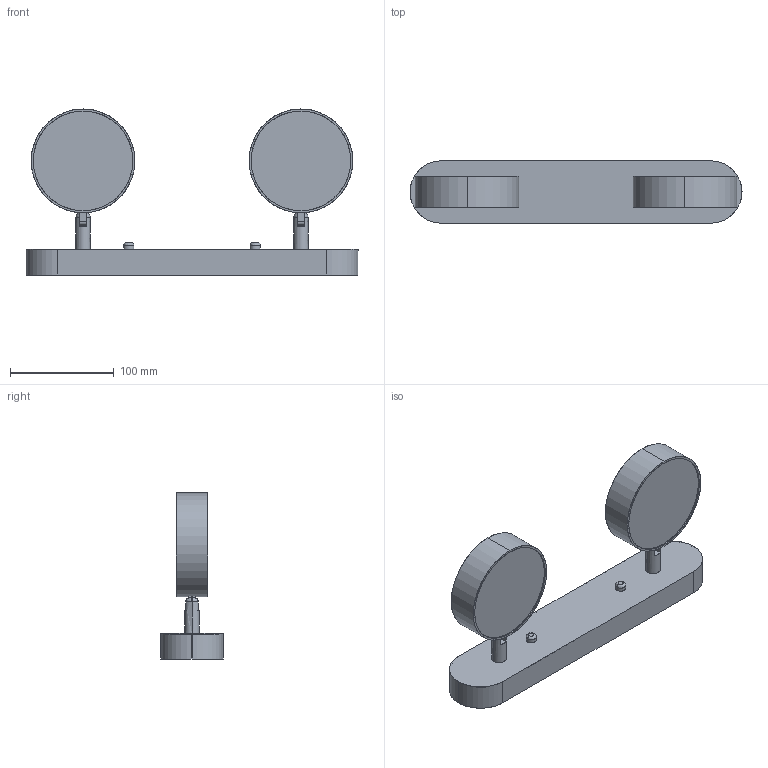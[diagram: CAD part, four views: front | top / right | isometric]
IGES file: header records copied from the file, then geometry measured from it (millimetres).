
Start section: SolidWorks IGES file using analytic representation for surfaces
Global section: file name: F:\燠隴矨\3D\2026-1\Black Travertine Duo Wall Light-2Lights.IGS,15; native system: HSolidWorks 2022; preprocessor: SolidWorks 2022; author: MyPC; date: 260106.090414; units: millimetre
Bounding box: 320 x 60 x 160 mm (x, y, z)
Surface area: 127722.3 mm2 (no closed solid volume)
Topology: 0 solids, 0 shells, 77 faces, 1424 edges, 1424 vertices
Faces by surface type: bspline 49, revolution 28
